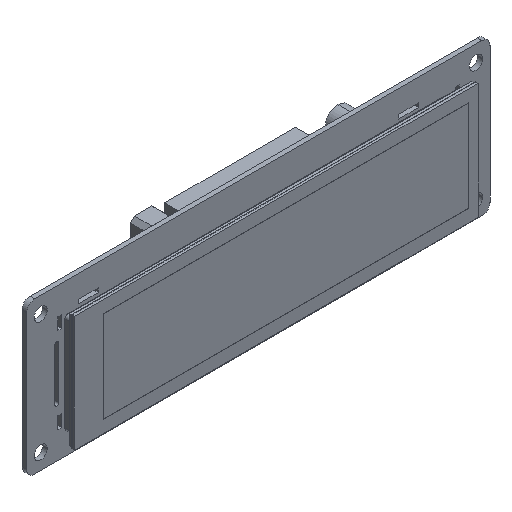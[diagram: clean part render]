
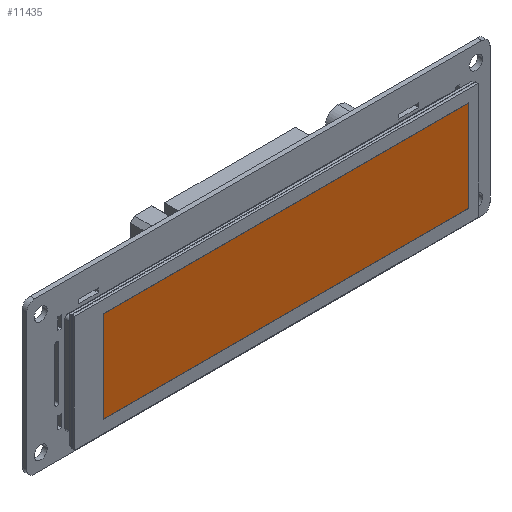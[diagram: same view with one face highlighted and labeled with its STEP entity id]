
A CAD part, isometric view. The second image highlights one B-rep face of the part: STEP entity #11435.
In plain terms, the highlighted planar face has unit normal (0, -1, 0).
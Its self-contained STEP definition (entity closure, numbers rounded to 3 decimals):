
#351 = ORIENTED_EDGE ( 'NONE', *, *, #1633, .T. ) ;
#402 = EDGE_CURVE ( 'NONE', #2773, #6688, #1678, .T. ) ;
#443 = DIRECTION ( 'NONE',  ( -1., 0., 0. ) ) ;
#585 = VECTOR ( 'NONE', #443, 1000. ) ;
#1633 = EDGE_CURVE ( 'NONE', #10254, #8793, #8934, .T. ) ;
#1678 = LINE ( 'NONE', #10206, #4076 ) ;
#2219 = ORIENTED_EDGE ( 'NONE', *, *, #10634, .T. ) ;
#2243 = EDGE_LOOP ( 'NONE', ( #351, #8149, #2448, #2219 ) ) ;
#2448 = ORIENTED_EDGE ( 'NONE', *, *, #402, .T. ) ;
#2773 = VERTEX_POINT ( 'NONE', #7804 ) ;
#3354 = CARTESIAN_POINT ( 'NONE',  ( 25.76, -0.6, -7.05 ) ) ;
#3712 = VECTOR ( 'NONE', #10950, 1000. ) ;
#3810 = DIRECTION ( 'NONE',  ( 0., 1., 0. ) ) ;
#3816 = FACE_OUTER_BOUND ( 'NONE', #2243, .T. ) ;
#4076 = VECTOR ( 'NONE', #6587, 1000. ) ;
#4463 = DIRECTION ( 'NONE',  ( 0., 0., 1. ) ) ;
#4785 = CARTESIAN_POINT ( 'NONE',  ( 25.76, -0.6, -98.49 ) ) ;
#5139 = LINE ( 'NONE', #10374, #585 ) ;
#5608 = PLANE ( 'NONE',  #10294 ) ;
#6240 = CARTESIAN_POINT ( 'NONE',  ( 25.76, -0.6, -7.05 ) ) ;
#6587 = DIRECTION ( 'NONE',  ( 0., 0., -1. ) ) ;
#6688 = VERTEX_POINT ( 'NONE', #8549 ) ;
#7018 = EDGE_CURVE ( 'NONE', #8793, #2773, #5139, .T. ) ;
#7804 = CARTESIAN_POINT ( 'NONE',  ( 2.9, -0.6, -7.05 ) ) ;
#8149 = ORIENTED_EDGE ( 'NONE', *, *, #7018, .T. ) ;
#8546 = LINE ( 'NONE', #10004, #3712 ) ;
#8549 = CARTESIAN_POINT ( 'NONE',  ( 2.9, -0.6, -98.49 ) ) ;
#8793 = VERTEX_POINT ( 'NONE', #3354 ) ;
#8934 = LINE ( 'NONE', #6240, #10768 ) ;
#9230 = CARTESIAN_POINT ( 'NONE',  ( 0., -0.6, 0. ) ) ;
#10004 = CARTESIAN_POINT ( 'NONE',  ( 25.76, -0.6, -98.49 ) ) ;
#10142 = DIRECTION ( 'NONE',  ( 0., 0., 1. ) ) ;
#10206 = CARTESIAN_POINT ( 'NONE',  ( 2.9, -0.6, -98.49 ) ) ;
#10254 = VERTEX_POINT ( 'NONE', #4785 ) ;
#10294 = AXIS2_PLACEMENT_3D ( 'NONE', #9230, #3810, #10142 ) ;
#10374 = CARTESIAN_POINT ( 'NONE',  ( 2.9, -0.6, -7.05 ) ) ;
#10634 = EDGE_CURVE ( 'NONE', #6688, #10254, #8546, .T. ) ;
#10768 = VECTOR ( 'NONE', #4463, 1000. ) ;
#10950 = DIRECTION ( 'NONE',  ( 1., 0., 0. ) ) ;
#11435 = ADVANCED_FACE ( 'NONE', ( #3816 ), #5608, .F. ) ;
